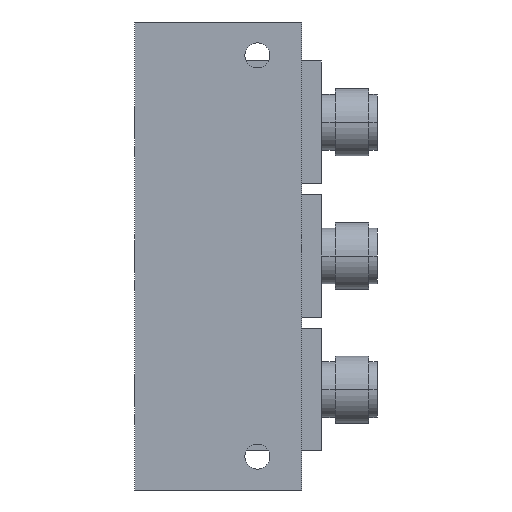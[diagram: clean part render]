
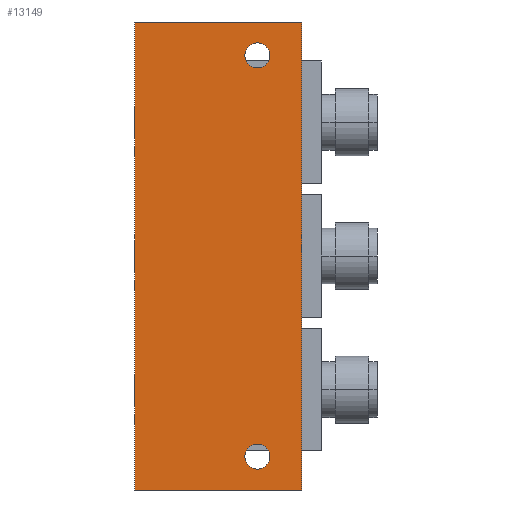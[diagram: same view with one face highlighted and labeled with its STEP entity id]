
A CAD part, left-side view. The second image highlights one B-rep face of the part: STEP entity #13149.
In plain terms, the highlighted planar face has unit normal (-1, 0, 0).
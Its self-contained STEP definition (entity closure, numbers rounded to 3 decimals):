
#66 = CARTESIAN_POINT ( 'NONE',  ( -10., -15., 0. ) ) ;
#67 = CARTESIAN_POINT ( 'NONE',  ( -10., 15., 0. ) ) ;
#128 = CARTESIAN_POINT ( 'NONE',  ( -10., -7., -3.75 ) ) ;
#278 = CARTESIAN_POINT ( 'NONE',  ( -10., 15., -84. ) ) ;
#279 = CARTESIAN_POINT ( 'NONE',  ( -10., -15., -84. ) ) ;
#1165 = PLANE ( 'NONE',  #1996 ) ;
#1166 = CARTESIAN_POINT ( 'NONE',  ( -10., 15., 0. ) ) ;
#1167 = DIRECTION ( 'NONE',  ( -1., 0., 0. ) ) ;
#1168 = DIRECTION ( 'NONE',  ( 0., 0.707, 0.707 ) ) ;
#1996 = AXIS2_PLACEMENT_3D ( 'NONE', #1166, #1167, #1168 ) ;
#3168 = FACE_BOUND ( 'NONE', #11232, .T. ) ;
#3169 = FACE_BOUND ( 'NONE', #11216, .T. ) ;
#3178 = FACE_OUTER_BOUND ( 'NONE', #11234, .T. ) ;
#8626 = VERTEX_POINT ( 'NONE', #128 ) ;
#8685 = VERTEX_POINT ( 'NONE', #67 ) ;
#8686 = VERTEX_POINT ( 'NONE', #66 ) ;
#8701 = VERTEX_POINT ( 'NONE', #279 ) ;
#8702 = VERTEX_POINT ( 'NONE', #278 ) ;
#9236 = VERTEX_POINT ( 'NONE', #16390 ) ;
#9259 = VERTEX_POINT ( 'NONE', #16403 ) ;
#9267 = VERTEX_POINT ( 'NONE', #16407 ) ;
#11216 = EDGE_LOOP ( 'NONE', ( #12107, #12108 ) ) ;
#11232 = EDGE_LOOP ( 'NONE', ( #12109, #12110 ) ) ;
#11234 = EDGE_LOOP ( 'NONE', ( #12111, #12112, #12113, #12114 ) ) ;
#12107 = ORIENTED_EDGE ( 'NONE', *, *, #12311, .T. ) ;
#12108 = ORIENTED_EDGE ( 'NONE', *, *, #12794, .T. ) ;
#12109 = ORIENTED_EDGE ( 'NONE', *, *, #12279, .T. ) ;
#12110 = ORIENTED_EDGE ( 'NONE', *, *, #12802, .T. ) ;
#12111 = ORIENTED_EDGE ( 'NONE', *, *, #12310, .T. ) ;
#12112 = ORIENTED_EDGE ( 'NONE', *, *, #12241, .F. ) ;
#12113 = ORIENTED_EDGE ( 'NONE', *, *, #12438, .T. ) ;
#12114 = ORIENTED_EDGE ( 'NONE', *, *, #12487, .T. ) ;
#12241 = EDGE_CURVE ( 'NONE', #8686, #8701, #15948, .T. ) ;
#12279 = EDGE_CURVE ( 'NONE', #9267, #8626, #17426, .T. ) ;
#12310 = EDGE_CURVE ( 'NONE', #8702, #8701, #17462, .T. ) ;
#12311 = EDGE_CURVE ( 'NONE', #9236, #9259, #17467, .T. ) ;
#12438 = EDGE_CURVE ( 'NONE', #8686, #8685, #17602, .T. ) ;
#12487 = EDGE_CURVE ( 'NONE', #8685, #8702, #17661, .T. ) ;
#12794 = EDGE_CURVE ( 'NONE', #9259, #9236, #18013, .T. ) ;
#12802 = EDGE_CURVE ( 'NONE', #8626, #9267, #18026, .T. ) ;
#13149 = ADVANCED_FACE ( 'NONE', ( #3169, #3168, #3178 ), #1165, .T. ) ;
#13995 = AXIS2_PLACEMENT_3D ( 'NONE', #16719, #16724, #16725 ) ;
#14000 = AXIS2_PLACEMENT_3D ( 'NONE', #16822, #16823, #16824 ) ;
#14163 = AXIS2_PLACEMENT_3D ( 'NONE', #19262, #19265, #19266 ) ;
#14167 = AXIS2_PLACEMENT_3D ( 'NONE', #19275, #19285, #19286 ) ;
#15948 = LINE ( 'NONE', #16596, #15951 ) ;
#15951 = VECTOR ( 'NONE', #16598, 1000. ) ;
#16390 = CARTESIAN_POINT ( 'NONE',  ( -10., -7., -80.25 ) ) ;
#16403 = CARTESIAN_POINT ( 'NONE',  ( -10., -7., -75.75 ) ) ;
#16407 = CARTESIAN_POINT ( 'NONE',  ( -10., -7., -8.25 ) ) ;
#16596 = CARTESIAN_POINT ( 'NONE',  ( -10., -15., 0. ) ) ;
#16598 = DIRECTION ( 'NONE',  ( 0., 0., -1. ) ) ;
#16719 = CARTESIAN_POINT ( 'NONE',  ( -10., -7., -6. ) ) ;
#16724 = DIRECTION ( 'NONE',  ( 1., 0., 0. ) ) ;
#16725 = DIRECTION ( 'NONE',  ( 0., 0., -1. ) ) ;
#16820 = CARTESIAN_POINT ( 'NONE',  ( -10., -15., -84. ) ) ;
#16821 = DIRECTION ( 'NONE',  ( 0., -1., 0. ) ) ;
#16822 = CARTESIAN_POINT ( 'NONE',  ( -10., -7., -78. ) ) ;
#16823 = DIRECTION ( 'NONE',  ( 1., 0., 0. ) ) ;
#16824 = DIRECTION ( 'NONE',  ( 0., 0., -1. ) ) ;
#17222 = CARTESIAN_POINT ( 'NONE',  ( -10., -15., 0. ) ) ;
#17223 = DIRECTION ( 'NONE',  ( 0., 1., 0. ) ) ;
#17374 = CARTESIAN_POINT ( 'NONE',  ( -10., 15., 0. ) ) ;
#17375 = DIRECTION ( 'NONE',  ( 0., 0., -1. ) ) ;
#17426 = CIRCLE ( 'NONE', #13995, 2.25 ) ;
#17462 = LINE ( 'NONE', #16820, #17463 ) ;
#17463 = VECTOR ( 'NONE', #16821, 1000. ) ;
#17467 = CIRCLE ( 'NONE', #14000, 2.25 ) ;
#17602 = LINE ( 'NONE', #17222, #17603 ) ;
#17603 = VECTOR ( 'NONE', #17223, 1000. ) ;
#17661 = LINE ( 'NONE', #17374, #17662 ) ;
#17662 = VECTOR ( 'NONE', #17375, 1000. ) ;
#18013 = CIRCLE ( 'NONE', #14163, 2.25 ) ;
#18026 = CIRCLE ( 'NONE', #14167, 2.25 ) ;
#19262 = CARTESIAN_POINT ( 'NONE',  ( -10., -7., -78. ) ) ;
#19265 = DIRECTION ( 'NONE',  ( 1., 0., 0. ) ) ;
#19266 = DIRECTION ( 'NONE',  ( 0., 0., -1. ) ) ;
#19275 = CARTESIAN_POINT ( 'NONE',  ( -10., -7., -6. ) ) ;
#19285 = DIRECTION ( 'NONE',  ( 1., 0., 0. ) ) ;
#19286 = DIRECTION ( 'NONE',  ( 0., 0., -1. ) ) ;
